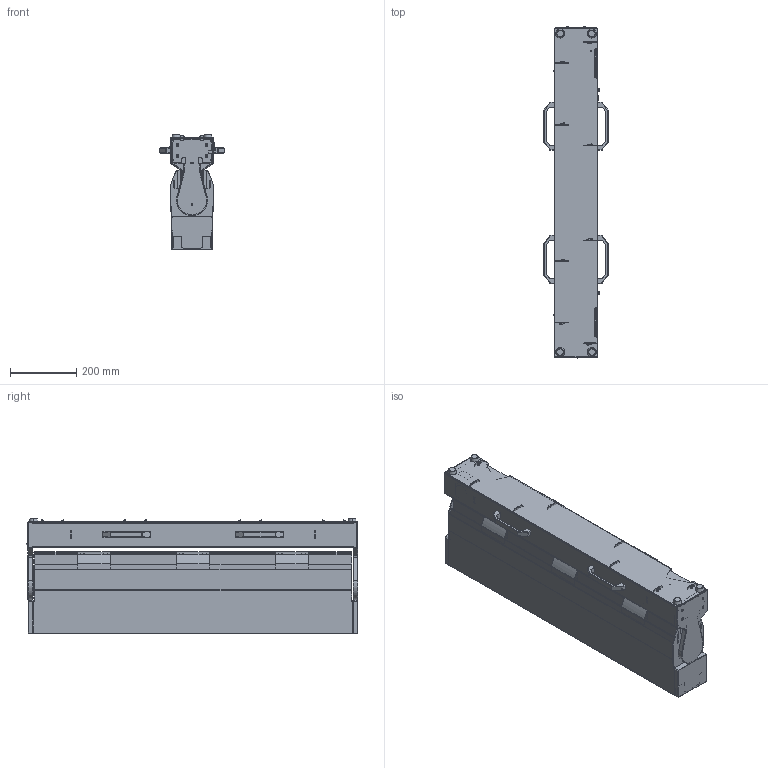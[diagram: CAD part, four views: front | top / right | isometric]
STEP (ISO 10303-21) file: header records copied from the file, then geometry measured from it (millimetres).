
FILE_DESCRIPTION((''),'2;1');
FILE_NAME('FR10','2019-07-26T06:06:11',('fw'),(''),'CREO PARAMETRIC BY PTC INC, 2018260','CREO PARAMETRIC BY PTC INC, 2018260','');
FILE_SCHEMA(('AUTOMOTIVE_DESIGN { 1 0 10303 214 1 1 1 1 }'));
Products named in the file (1): FR10
Bounding box: 196 x 1005.6 x 350.43 mm (x, y, z)
Surface area: 2776621.2 mm2 (no closed solid volume)
Topology: 0 solids, 326 shells, 1769 faces, 6534 edges, 4889 vertices
Faces by surface type: plane 947, cylinder 673, cone 84, torus 43, sphere 20, extrusion 2
Entity records: 83710 total; most frequent: CARTESIAN_POINT 17445, DIRECTION 11271, ORIENTED_EDGE 9872, EDGE_CURVE 6530, VERTEX_POINT 4890, AXIS2_PLACEMENT_3D 3805, VECTOR 3661, LINE 3659
